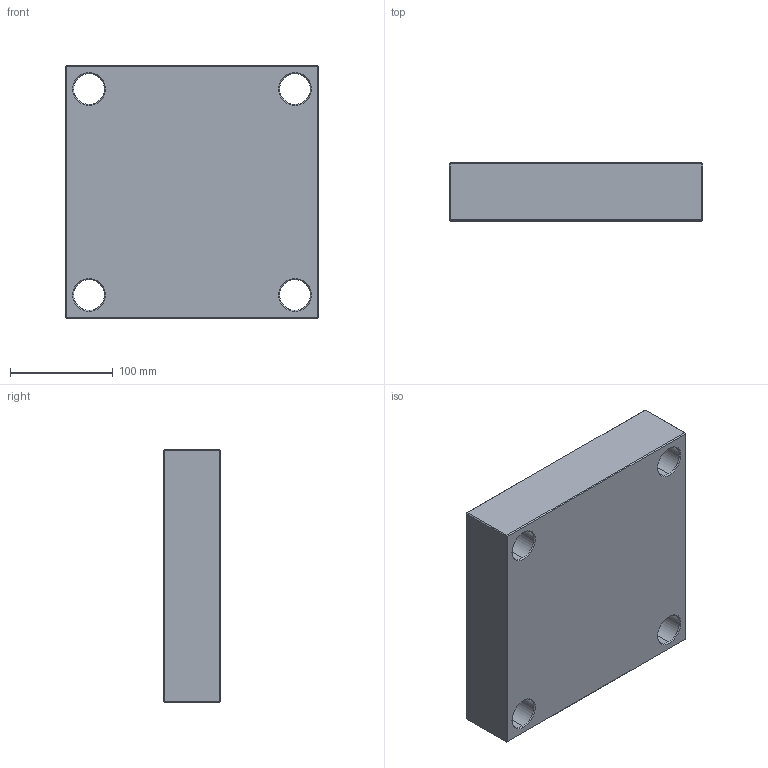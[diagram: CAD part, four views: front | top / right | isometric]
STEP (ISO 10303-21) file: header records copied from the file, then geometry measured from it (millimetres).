
FILE_DESCRIPTION (( 'STEP AP214' ), '1' );
FILE_NAME ('PC-246x246x56.STEP', '2020-04-21T16:07:39', ( 'August' ), ( '' ), 'SwSTEP 2.0', 'SolidWorks 2018', '' );
FILE_SCHEMA (( 'AUTOMOTIVE_DESIGN' ));
Length unit declared in the file: millimetre
Products named in the file (1): PC-246x246x56
Bounding box: 246 x 56 x 246 mm (x, y, z)
Volume: 3210271.4 mm3; surface area: 193841.1 mm2
Topology: 1 solids, 1 shells, 82 faces, 168 edges, 96 vertices
Faces by surface type: plane 34, cone 24, cylinder 24
Entity records: 2170 total; most frequent: DIRECTION 406, CARTESIAN_POINT 347, ORIENTED_EDGE 336, EDGE_CURVE 168, AXIS2_PLACEMENT_3D 155, EDGE_LOOP 98, VECTOR 96, VERTEX_POINT 96
